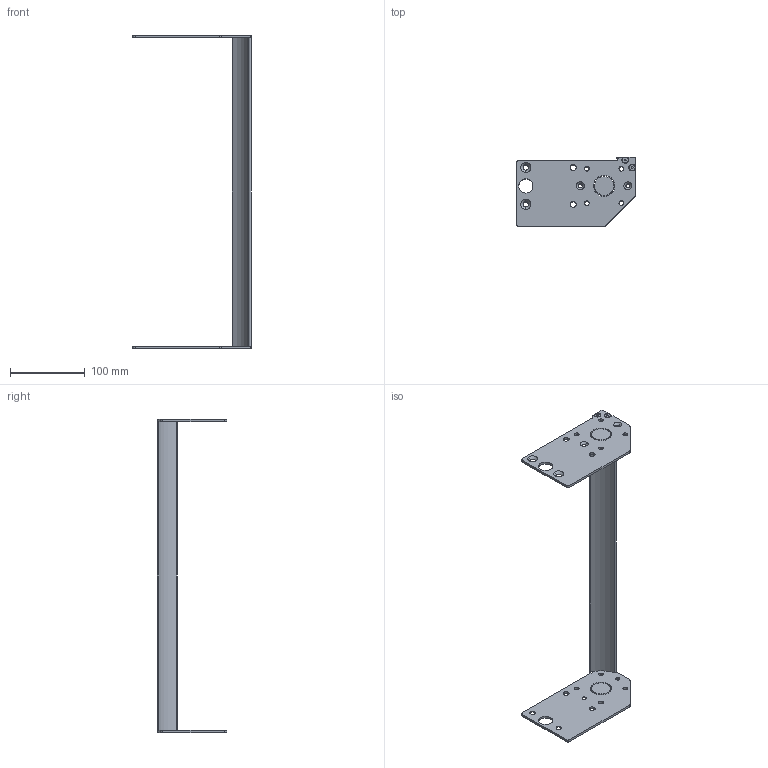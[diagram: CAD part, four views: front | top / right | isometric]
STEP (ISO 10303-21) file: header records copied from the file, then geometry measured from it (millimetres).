
FILE_DESCRIPTION((''),'2;1');
FILE_NAME('27M3300-14_ASM','2019-04-30T',('james.horst'),(''),'PRO/ENGINEER BY PARAMETRIC TECHNOLOGY CORPORATION, 2012420','PRO/ENGINEER BY PARAMETRIC TECHNOLOGY CORPORATION, 2012420','');
FILE_SCHEMA(('CONFIG_CONTROL_DESIGN'));
Length unit declared in the file: inch
Products named in the file (7): 350539-16; 350540_1; 350541_1; 930410M_1; 27M3300-10_ASM_1_ASM_1_ASM; 27M3300-12_ASM_1_ASM; 27M3300-14_ASM
Assembly tree (9 placements, depth 4):
  27M3300-14_ASM
    27M3300-12_ASM_1_ASM
      27M3300-10_ASM_1_ASM_1_ASM
        350539-16
        350540_1
        350541_1
        930410M_1  x4
Bounding box: 157.96 x 92.74 x 418.74 mm (x, y, z)
Volume: 194788.1 mm3; surface area: 102701.6 mm2
Topology: 7 solids, 11 shells, 206 faces, 556 edges, 368 vertices
Faces by surface type: cylinder 96, plane 70, cone 40
Entity records: 5570 total; most frequent: DIRECTION 1028, CARTESIAN_POINT 950, ORIENTED_EDGE 868, EDGE_CURVE 442, AXIS2_PLACEMENT_3D 411, VERTEX_POINT 296, CIRCLE 230, EDGE_LOOP 220
